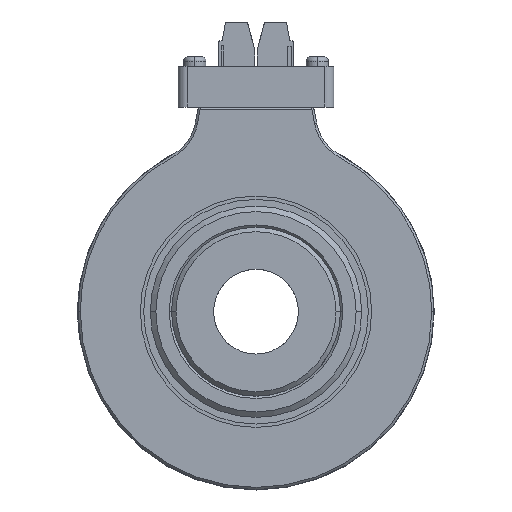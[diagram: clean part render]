
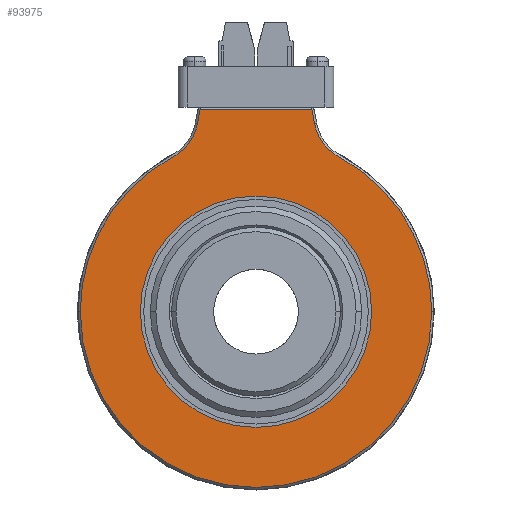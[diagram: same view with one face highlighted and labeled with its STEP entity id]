
A CAD part, left-side view. The second image highlights one B-rep face of the part: STEP entity #93975.
In plain terms, the highlighted planar face has unit normal (-1, 0, 0).
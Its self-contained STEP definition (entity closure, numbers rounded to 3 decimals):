
#380 = EDGE_CURVE ( 'NONE', #73184, #78211, #52754, .T. ) ;
#2203 = DIRECTION ( 'NONE',  ( 0., 0.174, 0.985 ) ) ;
#3512 = AXIS2_PLACEMENT_3D ( 'NONE', #8201, #16342, #70887 ) ;
#4550 = DIRECTION ( 'NONE',  ( 0., -1., 0. ) ) ;
#7424 = DIRECTION ( 'NONE',  ( 0., 1., 0. ) ) ;
#8201 = CARTESIAN_POINT ( 'NONE',  ( -26., 0., 0. ) ) ;
#9217 = DIRECTION ( 'NONE',  ( 1., 0., 0. ) ) ;
#9352 = AXIS2_PLACEMENT_3D ( 'NONE', #63412, #18048, #80272 ) ;
#11173 = VERTEX_POINT ( 'NONE', #57952 ) ;
#12281 = CIRCLE ( 'NONE', #72536, 10.5 ) ;
#16271 = CIRCLE ( 'NONE', #81220, 39.5 ) ;
#16342 = DIRECTION ( 'NONE',  ( -1., 0., 0. ) ) ;
#17572 = CARTESIAN_POINT ( 'NONE',  ( -26., -23.482, 44.143 ) ) ;
#18048 = DIRECTION ( 'NONE',  ( -1., 0., 0. ) ) ;
#18256 = VERTEX_POINT ( 'NONE', #87565 ) ;
#18412 = CARTESIAN_POINT ( 'NONE',  ( -26., -18.551, 34.873 ) ) ;
#18570 = DIRECTION ( 'NONE',  ( 0., -1., 0. ) ) ;
#19167 = DIRECTION ( 'NONE',  ( 0., -1., 0. ) ) ;
#19611 = VERTEX_POINT ( 'NONE', #33612 ) ;
#20496 = EDGE_CURVE ( 'NONE', #78211, #73184, #25379, .T. ) ;
#20937 = AXIS2_PLACEMENT_3D ( 'NONE', #97720, #27817, #19167 ) ;
#21404 = CIRCLE ( 'NONE', #3512, 39.5 ) ;
#21648 = FACE_BOUND ( 'NONE', #90859, .T. ) ;
#21829 = AXIS2_PLACEMENT_3D ( 'NONE', #31618, #9217, #55598 ) ;
#24124 = LINE ( 'NONE', #93515, #52838 ) ;
#25379 = CIRCLE ( 'NONE', #47939, 26. ) ;
#26320 = EDGE_CURVE ( 'NONE', #18256, #94552, #16271, .T. ) ;
#27262 = ORIENTED_EDGE ( 'NONE', *, *, #20496, .T. ) ;
#27817 = DIRECTION ( 'NONE',  ( 1., 0., 0. ) ) ;
#28266 = EDGE_CURVE ( 'NONE', #55054, #19611, #36998, .T. ) ;
#30075 = CARTESIAN_POINT ( 'NONE',  ( -26., 13.141, 42.32 ) ) ;
#31061 = ORIENTED_EDGE ( 'NONE', *, *, #55864, .T. ) ;
#31250 = ORIENTED_EDGE ( 'NONE', *, *, #78359, .T. ) ;
#31618 = CARTESIAN_POINT ( 'NONE',  ( -26., 0., 0. ) ) ;
#33612 = CARTESIAN_POINT ( 'NONE',  ( -26., 12.58, 45.5 ) ) ;
#34386 = ORIENTED_EDGE ( 'NONE', *, *, #94896, .T. ) ;
#34463 = CARTESIAN_POINT ( 'NONE',  ( -26., 21.188, -3.317 ) ) ;
#34578 = ORIENTED_EDGE ( 'NONE', *, *, #68867, .T. ) ;
#35092 = CARTESIAN_POINT ( 'NONE',  ( -26., 0., 0. ) ) ;
#36998 = LINE ( 'NONE', #75253, #68450 ) ;
#37469 = ORIENTED_EDGE ( 'NONE', *, *, #28266, .T. ) ;
#41567 = ORIENTED_EDGE ( 'NONE', *, *, #72566, .T. ) ;
#41682 = ORIENTED_EDGE ( 'NONE', *, *, #380, .T. ) ;
#44073 = ORIENTED_EDGE ( 'NONE', *, *, #46671, .T. ) ;
#46114 = PLANE ( 'NONE',  #51742 ) ;
#46671 = EDGE_CURVE ( 'NONE', #11173, #55054, #24124, .T. ) ;
#47939 = AXIS2_PLACEMENT_3D ( 'NONE', #35092, #74872, #51912 ) ;
#51742 = AXIS2_PLACEMENT_3D ( 'NONE', #92038, #52744, #83873 ) ;
#51912 = DIRECTION ( 'NONE',  ( 0., 1., 0. ) ) ;
#51934 = CARTESIAN_POINT ( 'NONE',  ( -26., 0., 0. ) ) ;
#52744 = DIRECTION ( 'NONE',  ( -1., 0., 0. ) ) ;
#52754 = CIRCLE ( 'NONE', #21829, 26. ) ;
#52838 = VECTOR ( 'NONE', #2203, 1000. ) ;
#53606 = VERTEX_POINT ( 'NONE', #30075 ) ;
#55054 = VERTEX_POINT ( 'NONE', #60155 ) ;
#55479 = CARTESIAN_POINT ( 'NONE',  ( -26., 18.551, 34.873 ) ) ;
#55598 = DIRECTION ( 'NONE',  ( 0., 1., 0. ) ) ;
#55864 = EDGE_CURVE ( 'NONE', #19611, #53606, #58921, .T. ) ;
#57325 = DIRECTION ( 'NONE',  ( 1., 0., 0. ) ) ;
#57952 = CARTESIAN_POINT ( 'NONE',  ( -26., -13.141, 42.32 ) ) ;
#58921 = LINE ( 'NONE', #34463, #63741 ) ;
#59411 = DIRECTION ( 'NONE',  ( 0., 0.174, -0.985 ) ) ;
#60155 = CARTESIAN_POINT ( 'NONE',  ( -26., -12.58, 45.5 ) ) ;
#63412 = CARTESIAN_POINT ( 'NONE',  ( -26., 0., 0. ) ) ;
#63741 = VECTOR ( 'NONE', #59411, 1000. ) ;
#68450 = VECTOR ( 'NONE', #7424, 1000. ) ;
#68867 = EDGE_CURVE ( 'NONE', #94552, #11173, #12281, .T. ) ;
#70887 = DIRECTION ( 'NONE',  ( 0., -1., 0. ) ) ;
#72536 = AXIS2_PLACEMENT_3D ( 'NONE', #17572, #57325, #18570 ) ;
#72566 = EDGE_CURVE ( 'NONE', #92125, #100374, #87539, .T. ) ;
#72703 = CARTESIAN_POINT ( 'NONE',  ( -26., -26., 0. ) ) ;
#73184 = VERTEX_POINT ( 'NONE', #72703 ) ;
#74384 = DIRECTION ( 'NONE',  ( -1., 0., 0. ) ) ;
#74872 = DIRECTION ( 'NONE',  ( 1., 0., 0. ) ) ;
#75253 = CARTESIAN_POINT ( 'NONE',  ( -26., 40., 45.5 ) ) ;
#77205 = EDGE_LOOP ( 'NONE', ( #44073, #37469, #31061, #34386, #41567, #31250, #85662, #34578 ) ) ;
#77591 = CARTESIAN_POINT ( 'NONE',  ( -26., 39.5, 0. ) ) ;
#78211 = VERTEX_POINT ( 'NONE', #87973 ) ;
#78359 = EDGE_CURVE ( 'NONE', #100374, #18256, #21404, .T. ) ;
#80272 = DIRECTION ( 'NONE',  ( 0., -1., 0. ) ) ;
#81220 = AXIS2_PLACEMENT_3D ( 'NONE', #51934, #74384, #4550 ) ;
#83873 = DIRECTION ( 'NONE',  ( 0., -1., 0. ) ) ;
#85662 = ORIENTED_EDGE ( 'NONE', *, *, #26320, .T. ) ;
#87539 = CIRCLE ( 'NONE', #9352, 39.5 ) ;
#87565 = CARTESIAN_POINT ( 'NONE',  ( -26., -39.5, 0. ) ) ;
#87973 = CARTESIAN_POINT ( 'NONE',  ( -26., 26., 0. ) ) ;
#90859 = EDGE_LOOP ( 'NONE', ( #27262, #41682 ) ) ;
#91542 = FACE_OUTER_BOUND ( 'NONE', #77205, .T. ) ;
#92038 = CARTESIAN_POINT ( 'NONE',  ( -26., 40., 0. ) ) ;
#92125 = VERTEX_POINT ( 'NONE', #55479 ) ;
#93515 = CARTESIAN_POINT ( 'NONE',  ( -26., -18.776, 10.364 ) ) ;
#93975 = ADVANCED_FACE ( 'NONE', ( #91542, #21648 ), #46114, .T. ) ;
#94552 = VERTEX_POINT ( 'NONE', #18412 ) ;
#94896 = EDGE_CURVE ( 'NONE', #53606, #92125, #95886, .T. ) ;
#95886 = CIRCLE ( 'NONE', #20937, 10.5 ) ;
#97720 = CARTESIAN_POINT ( 'NONE',  ( -26., 23.482, 44.143 ) ) ;
#100374 = VERTEX_POINT ( 'NONE', #77591 ) ;
